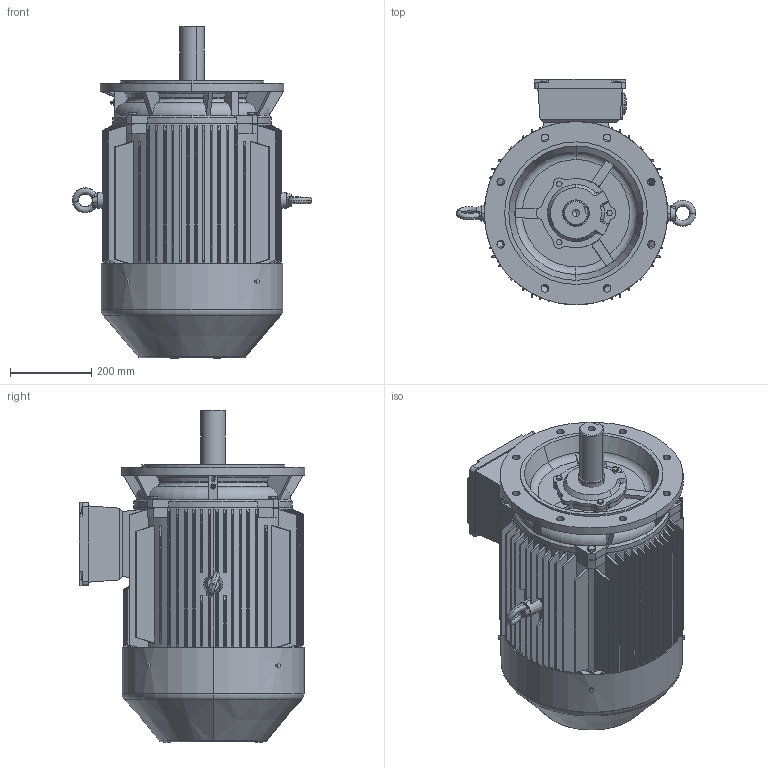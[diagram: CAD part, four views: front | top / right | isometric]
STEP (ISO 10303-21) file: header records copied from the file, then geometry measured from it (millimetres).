
FILE_DESCRIPTION (( 'STEP AP203' ), '1' );
FILE_NAME ('TE3-225S-4,8 V1.STEP', '2019-12-23T02:03:07', ( '微软用户' ), ( '微软中国' ), 'SwSTEP 2.0', 'SolidWorks 2012', '' );
FILE_SCHEMA (( 'CONFIG_CONTROL_DESIGN' ));
Length unit declared in the file: millimetre
Products named in the file (14): TE3-225S-4,8 V1; Y2-200~225 P24諉盄碟; hexagon head bolts-full thread gb_GB_FASTENER_BOLT_STBAB A M8X16-N; 8EJ.353.10054GX200~225P24諉盄碟裔; 8EJ.354.594Y2-200~225P24諉盄碟釱; 蚐戚; eyebolts gb_GB_FASTENER_SCREWS_FRS M16-N; YX3-225 瑞欶; YE3-225-4,6,8（轴伸）; hex head bolts-full thread grade c gb_GB_FASTENER_BOLT_HHBFTC M12X25-N; hex head bolts-full thread grade c gb_GB_FASTENER_BOLT_HHBFTC M8X25-N; Y2-225-4,6,8轴承外盖（轴伸端）; Y2-225-4,6,8芧埽傷裔017.00082; Y2-225S V1儂釱
Assembly tree (22 placements, depth 3):
  TE3-225S-4,8 V1
    Y2-225S V1儂釱
    Y2-225-4,6,8芧埽傷裔017.00082
    Y2-225-4,6,8轴承外盖（轴伸端）
    hex head bolts-full thread grade c gb_GB_FASTENER_BOLT_HHBFTC M8X25-N  x3
    hex head bolts-full thread grade c gb_GB_FASTENER_BOLT_HHBFTC M12X25-N  x4
    YE3-225-4,6,8（轴伸）
    YX3-225 瑞欶
    eyebolts gb_GB_FASTENER_SCREWS_FRS M16-N  x2
    蚐戚
    Y2-200~225 P24諉盄碟
      8EJ.354.594Y2-200~225P24諉盄碟釱
      8EJ.353.10054GX200~225P24諉盄碟裔
      hexagon head bolts-full thread gb_GB_FASTENER_BOLT_STBAB A M8X16-N  x4
Bounding box: 588.4 x 554 x 815 mm (x, y, z)
Volume: 58505895.4 mm3; surface area: 3663631.5 mm2
Topology: 22 solids, 22 shells, 2926 faces, 7220 edges, 4730 vertices
Faces by surface type: plane 2084, cylinder 359, cone 243, bspline 148, torus 86, sphere 6
Entity records: 95339 total; most frequent: CARTESIAN_POINT 30465, ORIENTED_EDGE 13406, DIRECTION 11826, EDGE_CURVE 6703, VECTOR 4950, LINE 4950, VERTEX_POINT 4418, AXIS2_PLACEMENT_3D 3438
